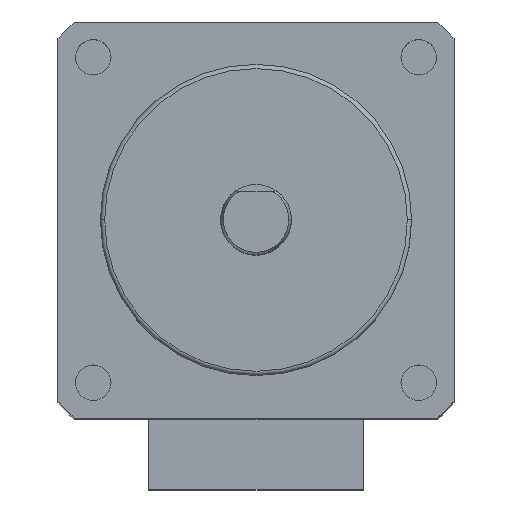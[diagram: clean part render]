
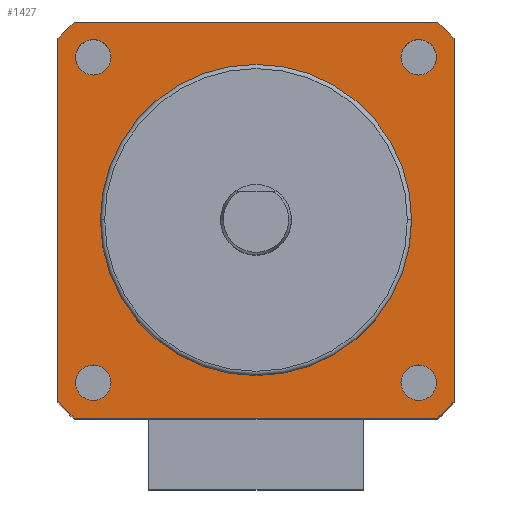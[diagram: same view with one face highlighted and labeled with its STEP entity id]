
A CAD part, top view. The second image highlights one B-rep face of the part: STEP entity #1427.
In plain terms, the highlighted planar face has unit normal (0, 0, 1).
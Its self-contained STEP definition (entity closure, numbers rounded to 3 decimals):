
#15 = CIRCLE ( 'NONE', #1391, 1.25 ) ;
#35 = EDGE_CURVE ( 'NONE', #597, #351, #825, .T. ) ;
#38 = DIRECTION ( 'NONE',  ( -1., 0., 0. ) ) ;
#50 = EDGE_LOOP ( 'NONE', ( #193, #917, #458, #733, #1232, #658, #557, #393 ) ) ;
#58 = DIRECTION ( 'NONE',  ( 0., 0., -1. ) ) ;
#88 = EDGE_CURVE ( 'NONE', #519, #262, #15, .T. ) ;
#92 = DIRECTION ( 'NONE',  ( -1., 0., 0. ) ) ;
#95 = CARTESIAN_POINT ( 'NONE',  ( -14., 12.845, 0. ) ) ;
#104 = DIRECTION ( 'NONE',  ( 1., 0., 0. ) ) ;
#110 = DIRECTION ( 'NONE',  ( 1., 0., 0. ) ) ;
#113 = AXIS2_PLACEMENT_3D ( 'NONE', #911, #769, #610 ) ;
#114 = CARTESIAN_POINT ( 'NONE',  ( 10.25, -11.5, 0. ) ) ;
#134 = AXIS2_PLACEMENT_3D ( 'NONE', #357, #199, #38 ) ;
#145 = ORIENTED_EDGE ( 'NONE', *, *, #713, .F. ) ;
#148 = LINE ( 'NONE', #1428, #939 ) ;
#151 = DIRECTION ( 'NONE',  ( 1., 0., 0. ) ) ;
#171 = CARTESIAN_POINT ( 'NONE',  ( -12.845, -14., 0. ) ) ;
#173 = AXIS2_PLACEMENT_3D ( 'NONE', #425, #268, #104 ) ;
#193 = ORIENTED_EDGE ( 'NONE', *, *, #1231, .F. ) ;
#195 = VERTEX_POINT ( 'NONE', #844 ) ;
#197 = FACE_BOUND ( 'NONE', #1251, .T. ) ;
#199 = DIRECTION ( 'NONE',  ( 0., 0., -1. ) ) ;
#207 = CIRCLE ( 'NONE', #220, 1.25 ) ;
#216 = CIRCLE ( 'NONE', #173, 1.25 ) ;
#220 = AXIS2_PLACEMENT_3D ( 'NONE', #1264, #1136, #999 ) ;
#238 = FACE_BOUND ( 'NONE', #1350, .T. ) ;
#251 = EDGE_CURVE ( 'NONE', #597, #319, #1409, .T. ) ;
#256 = DIRECTION ( 'NONE',  ( 0., 0., -1. ) ) ;
#257 = VERTEX_POINT ( 'NONE', #95 ) ;
#259 = AXIS2_PLACEMENT_3D ( 'NONE', #948, #483, #318 ) ;
#262 = VERTEX_POINT ( 'NONE', #853 ) ;
#263 = EDGE_CURVE ( 'NONE', #419, #1204, #1381, .T. ) ;
#266 = EDGE_CURVE ( 'NONE', #1124, #683, #806, .T. ) ;
#268 = DIRECTION ( 'NONE',  ( 0., 0., 1. ) ) ;
#275 = VERTEX_POINT ( 'NONE', #816 ) ;
#278 = CARTESIAN_POINT ( 'NONE',  ( 0., 14., 0. ) ) ;
#281 = DIRECTION ( 'NONE',  ( 1., 0., 0. ) ) ;
#309 = LINE ( 'NONE', #278, #1116 ) ;
#311 = DIRECTION ( 'NONE',  ( 0., 0., 1. ) ) ;
#316 = FACE_BOUND ( 'NONE', #883, .T. ) ;
#318 = DIRECTION ( 'NONE',  ( 1., 0., 0. ) ) ;
#319 = VERTEX_POINT ( 'NONE', #934 ) ;
#326 = CIRCLE ( 'NONE', #545, 1.25 ) ;
#351 = VERTEX_POINT ( 'NONE', #754 ) ;
#354 = FACE_BOUND ( 'NONE', #361, .T. ) ;
#357 = CARTESIAN_POINT ( 'NONE',  ( 0., 0., 0. ) ) ;
#361 = EDGE_LOOP ( 'NONE', ( #849, #1361 ) ) ;
#377 = CARTESIAN_POINT ( 'NONE',  ( 0., 0., 0. ) ) ;
#390 = EDGE_CURVE ( 'NONE', #440, #667, #1128, .T. ) ;
#393 = ORIENTED_EDGE ( 'NONE', *, *, #1034, .F. ) ;
#399 = DIRECTION ( 'NONE',  ( 1., 0., 0. ) ) ;
#414 = VECTOR ( 'NONE', #518, 1000. ) ;
#415 = CARTESIAN_POINT ( 'NONE',  ( 0., 0., 0. ) ) ;
#417 = VECTOR ( 'NONE', #770, 1000. ) ;
#419 = VERTEX_POINT ( 'NONE', #435 ) ;
#423 = CARTESIAN_POINT ( 'NONE',  ( 12.845, 14., 0. ) ) ;
#425 = CARTESIAN_POINT ( 'NONE',  ( 11.5, 11.5, 0. ) ) ;
#435 = CARTESIAN_POINT ( 'NONE',  ( -10.25, 11.5, 0. ) ) ;
#438 = DIRECTION ( 'NONE',  ( 0., 0., 1. ) ) ;
#439 = FACE_OUTER_BOUND ( 'NONE', #50, .T. ) ;
#440 = VERTEX_POINT ( 'NONE', #114 ) ;
#442 = CIRCLE ( 'NONE', #134, 19. ) ;
#458 = ORIENTED_EDGE ( 'NONE', *, *, #35, .T. ) ;
#473 = CARTESIAN_POINT ( 'NONE',  ( 11.5, -11.5, 0. ) ) ;
#483 = DIRECTION ( 'NONE',  ( 0., 0., 1. ) ) ;
#505 = CIRCLE ( 'NONE', #259, 1.25 ) ;
#518 = DIRECTION ( 'NONE',  ( 1., 0., 0. ) ) ;
#519 = VERTEX_POINT ( 'NONE', #1158 ) ;
#545 = AXIS2_PLACEMENT_3D ( 'NONE', #1157, #1022, #877 ) ;
#547 = DIRECTION ( 'NONE',  ( 1., 0., 0. ) ) ;
#557 = ORIENTED_EDGE ( 'NONE', *, *, #1259, .F. ) ;
#559 = CARTESIAN_POINT ( 'NONE',  ( 14., -12.845, 0. ) ) ;
#562 = DIRECTION ( 'NONE',  ( 0., 0., 1. ) ) ;
#569 = ORIENTED_EDGE ( 'NONE', *, *, #906, .F. ) ;
#597 = VERTEX_POINT ( 'NONE', #171 ) ;
#610 = DIRECTION ( 'NONE',  ( -1., 0., 0. ) ) ;
#627 = ORIENTED_EDGE ( 'NONE', *, *, #88, .F. ) ;
#629 = EDGE_CURVE ( 'NONE', #275, #968, #207, .T. ) ;
#658 = ORIENTED_EDGE ( 'NONE', *, *, #266, .F. ) ;
#660 = AXIS2_PLACEMENT_3D ( 'NONE', #377, #58, #1360 ) ;
#667 = VERTEX_POINT ( 'NONE', #815 ) ;
#682 = CARTESIAN_POINT ( 'NONE',  ( 0., -14., 0. ) ) ;
#683 = VERTEX_POINT ( 'NONE', #1326 ) ;
#693 = CIRCLE ( 'NONE', #1414, 1.25 ) ;
#700 = CIRCLE ( 'NONE', #814, 19. ) ;
#711 = DIRECTION ( 'NONE',  ( 0., 0., 1. ) ) ;
#713 = EDGE_CURVE ( 'NONE', #968, #275, #216, .T. ) ;
#727 = AXIS2_PLACEMENT_3D ( 'NONE', #1166, #1036, #888 ) ;
#733 = ORIENTED_EDGE ( 'NONE', *, *, #885, .F. ) ;
#753 = AXIS2_PLACEMENT_3D ( 'NONE', #1000, #711, #547 ) ;
#754 = CARTESIAN_POINT ( 'NONE',  ( 12.845, -14., 0. ) ) ;
#765 = CARTESIAN_POINT ( 'NONE',  ( -11.5, -11.5, 0. ) ) ;
#769 = DIRECTION ( 'NONE',  ( 0., 0., -1. ) ) ;
#770 = DIRECTION ( 'NONE',  ( 0., 1., 0. ) ) ;
#806 = CIRCLE ( 'NONE', #660, 19. ) ;
#814 = AXIS2_PLACEMENT_3D ( 'NONE', #415, #256, #92 ) ;
#815 = CARTESIAN_POINT ( 'NONE',  ( 12.75, -11.5, 0. ) ) ;
#816 = CARTESIAN_POINT ( 'NONE',  ( 12.75, 11.5, 0. ) ) ;
#825 = LINE ( 'NONE', #682, #414 ) ;
#844 = CARTESIAN_POINT ( 'NONE',  ( -12.845, 14., 0. ) ) ;
#849 = ORIENTED_EDGE ( 'NONE', *, *, #263, .F. ) ;
#852 = EDGE_CURVE ( 'NONE', #1204, #419, #693, .T. ) ;
#853 = CARTESIAN_POINT ( 'NONE',  ( -12.75, -11.5, 0. ) ) ;
#877 = DIRECTION ( 'NONE',  ( 1., 0., 0. ) ) ;
#883 = EDGE_LOOP ( 'NONE', ( #1176, #145 ) ) ;
#885 = EDGE_CURVE ( 'NONE', #1274, #351, #442, .T. ) ;
#888 = DIRECTION ( 'NONE',  ( -1., 0., 0. ) ) ;
#906 = EDGE_CURVE ( 'NONE', #262, #519, #505, .T. ) ;
#911 = CARTESIAN_POINT ( 'NONE',  ( 0., 0., 0. ) ) ;
#912 = CARTESIAN_POINT ( 'NONE',  ( 14., 0., 0. ) ) ;
#916 = EDGE_CURVE ( 'NONE', #1274, #683, #1061, .T. ) ;
#917 = ORIENTED_EDGE ( 'NONE', *, *, #251, .F. ) ;
#927 = ORIENTED_EDGE ( 'NONE', *, *, #932, .F. ) ;
#932 = EDGE_CURVE ( 'NONE', #667, #440, #326, .T. ) ;
#934 = CARTESIAN_POINT ( 'NONE',  ( -14., -12.845, 0. ) ) ;
#939 = VECTOR ( 'NONE', #1303, 1000. ) ;
#948 = CARTESIAN_POINT ( 'NONE',  ( -11.5, -11.5, 0. ) ) ;
#968 = VERTEX_POINT ( 'NONE', #1352 ) ;
#999 = DIRECTION ( 'NONE',  ( 1., 0., 0. ) ) ;
#1000 = CARTESIAN_POINT ( 'NONE',  ( -11.5, 11.5, 0. ) ) ;
#1022 = DIRECTION ( 'NONE',  ( 0., 0., 1. ) ) ;
#1034 = EDGE_CURVE ( 'NONE', #257, #195, #700, .T. ) ;
#1036 = DIRECTION ( 'NONE',  ( 0., 0., -1. ) ) ;
#1059 = PLANE ( 'NONE',  #113 ) ;
#1061 = LINE ( 'NONE', #912, #417 ) ;
#1116 = VECTOR ( 'NONE', #110, 1000. ) ;
#1124 = VERTEX_POINT ( 'NONE', #423 ) ;
#1128 = CIRCLE ( 'NONE', #1218, 1.25 ) ;
#1136 = DIRECTION ( 'NONE',  ( 0., 0., 1. ) ) ;
#1150 = CARTESIAN_POINT ( 'NONE',  ( -11.5, 11.5, 0. ) ) ;
#1157 = CARTESIAN_POINT ( 'NONE',  ( 11.5, -11.5, 0. ) ) ;
#1158 = CARTESIAN_POINT ( 'NONE',  ( -10.25, -11.5, 0. ) ) ;
#1166 = CARTESIAN_POINT ( 'NONE',  ( 0., 0., 0. ) ) ;
#1176 = ORIENTED_EDGE ( 'NONE', *, *, #629, .F. ) ;
#1204 = VERTEX_POINT ( 'NONE', #1365 ) ;
#1218 = AXIS2_PLACEMENT_3D ( 'NONE', #473, #311, #151 ) ;
#1231 = EDGE_CURVE ( 'NONE', #319, #257, #148, .T. ) ;
#1232 = ORIENTED_EDGE ( 'NONE', *, *, #916, .T. ) ;
#1251 = EDGE_LOOP ( 'NONE', ( #627, #569 ) ) ;
#1259 = EDGE_CURVE ( 'NONE', #195, #1124, #309, .T. ) ;
#1264 = CARTESIAN_POINT ( 'NONE',  ( 11.5, 11.5, 0. ) ) ;
#1274 = VERTEX_POINT ( 'NONE', #559 ) ;
#1303 = DIRECTION ( 'NONE',  ( 0., 1., 0. ) ) ;
#1326 = CARTESIAN_POINT ( 'NONE',  ( 14., 12.845, 0. ) ) ;
#1341 = ORIENTED_EDGE ( 'NONE', *, *, #390, .F. ) ;
#1350 = EDGE_LOOP ( 'NONE', ( #927, #1341 ) ) ;
#1352 = CARTESIAN_POINT ( 'NONE',  ( 10.25, 11.5, 0. ) ) ;
#1360 = DIRECTION ( 'NONE',  ( -1., 0., 0. ) ) ;
#1361 = ORIENTED_EDGE ( 'NONE', *, *, #852, .F. ) ;
#1365 = CARTESIAN_POINT ( 'NONE',  ( -12.75, 11.5, 0. ) ) ;
#1381 = CIRCLE ( 'NONE', #753, 1.25 ) ;
#1391 = AXIS2_PLACEMENT_3D ( 'NONE', #765, #438, #281 ) ;
#1409 = CIRCLE ( 'NONE', #727, 19. ) ;
#1414 = AXIS2_PLACEMENT_3D ( 'NONE', #1150, #562, #399 ) ;
#1427 = ADVANCED_FACE ( 'NONE', ( #238, #197, #316, #354, #439 ), #1059, .F. ) ;
#1428 = CARTESIAN_POINT ( 'NONE',  ( -14., 0., 0. ) ) ;
